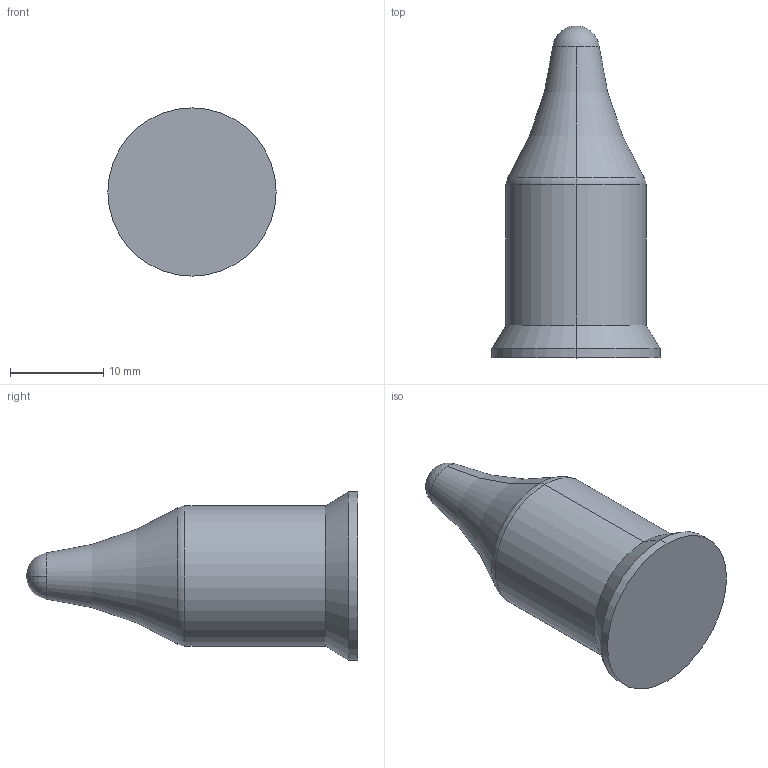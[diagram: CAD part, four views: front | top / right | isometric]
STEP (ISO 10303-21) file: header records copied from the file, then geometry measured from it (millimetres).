
FILE_DESCRIPTION (( 'STEP AP203' ), '1' );
FILE_NAME ('KCF-SW-PN-14P.STEP', '2022-04-05T06:58:41', ( '' ), ( '' ), 'SwSTEP 2.0', 'SolidWorks 2015', '' );
FILE_SCHEMA (( 'CONFIG_CONTROL_DESIGN' ));
Length unit declared in the file: millimetre
Products named in the file (2): KCF-SW-PN-14P
Bounding box: 18 x 35.5 x 18 mm (x, y, z)
Volume: 4505 mm3; surface area: 1651.7 mm2
Topology: 1 solids, 1 shells, 13 faces, 26 edges, 15 vertices
Faces by surface type: cylinder 4, torus 4, cone 2, sphere 2, plane 1
Entity records: 499 total; most frequent: DIRECTION 76, CARTESIAN_POINT 56, ORIENTED_EDGE 52, AXIS2_PLACEMENT_3D 35, EDGE_CURVE 26, CIRCLE 20, PERSON_AND_ORGANIZATION 16, VERTEX_POINT 15
